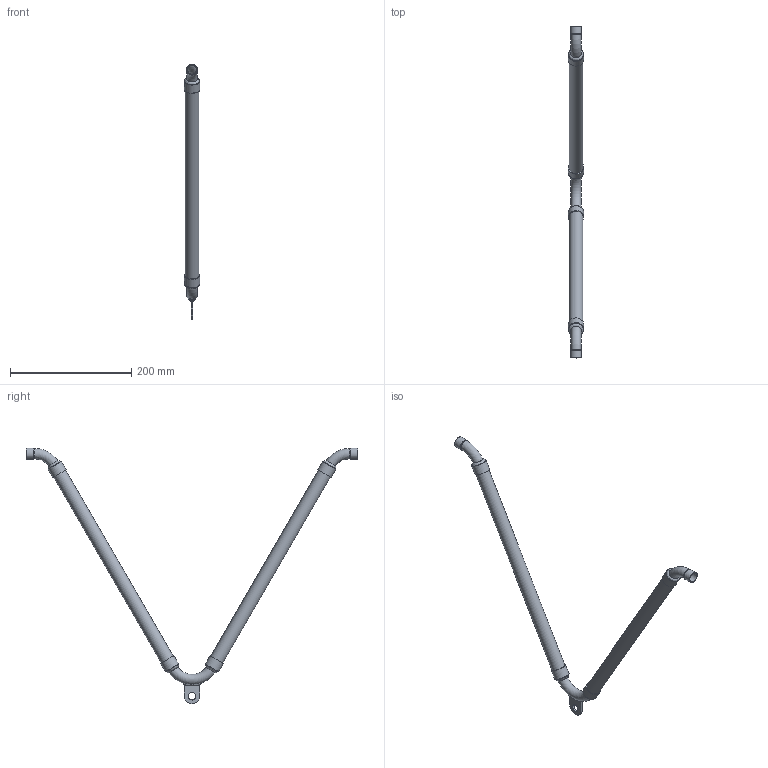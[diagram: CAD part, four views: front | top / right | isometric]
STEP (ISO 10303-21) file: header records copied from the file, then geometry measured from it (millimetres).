
FILE_DESCRIPTION((''),'2;1');
FILE_NAME('C:\REVIT SHARED FILES\STP\VCPSB\VCPSB-0_5.stp','2013-08-08T10:36:11',('rramoutar'),(''),'Autodesk Inventor 2012','Autodesk Inventor 2012','');
FILE_SCHEMA(('AUTOMOTIVE_DESIGN { 1 0 10303 214 1 1 1 1 }'));
Length unit declared in the file: inch
Products named in the file (7): A-31296 VCPSB 0.5 inch.iam (NO HOSE); A-31296 VCPSB 0.5 inch.iam (NO HOSE)_Welds; A-31124-3 VCPSB 0.5 inch 120 DEGREE ELBOW; A-31302 VCPS & VCPSB 0.5 inch TO 1.5 inch SUPPORT CLIP; A-31011 BRONZE HOSE BRAID COLLAR 0.5 inch; A-31116-3 VCPSB 0.5 inch 60 DEGREE ELBOW; A-31296 VCPSB 0.5 inch PHOSPHOR BRONZE BRAID
Assembly tree (11 placements, depth 2):
  A-31296 VCPSB 0.5 inch.iam (NO HOSE)
    A-31296 VCPSB 0.5 inch.iam (NO HOSE)_Welds
    A-31124-3 VCPSB 0.5 inch 120 DEGREE ELBOW
    A-31302 VCPS & VCPSB 0.5 inch TO 1.5 inch SUPPORT CLIP
    A-31011 BRONZE HOSE BRAID COLLAR 0.5 inch  x4
    A-31116-3 VCPSB 0.5 inch 60 DEGREE ELBOW  x2
    A-31296 VCPSB 0.5 inch PHOSPHOR BRONZE BRAID  x2
Bounding box: 25.24 x 547.69 x 421.94 mm (x, y, z)
Volume: 40443.6 mm3; surface area: 144675.4 mm2
Topology: 15 solids, 15 shells, 72 faces, 141 edges, 94 vertices
Faces by surface type: plane 31, cylinder 18, torus 11, bspline 8, cone 4
Full cylindrical faces by diameter (mm): 12.7 x1, 16.002 x2, 18.39 x2, 22.098 x6, 22.708 x2, 25.273 x4
Entity records: 4105 total; most frequent: CARTESIAN_POINT 2938, DIRECTION 190, ORIENTED_EDGE 156, AXIS2_PLACEMENT_3D 88, EDGE_LOOP 80, EDGE_CURVE 78, VERTEX_POINT 62, FACE_OUTER_BOUND 48
